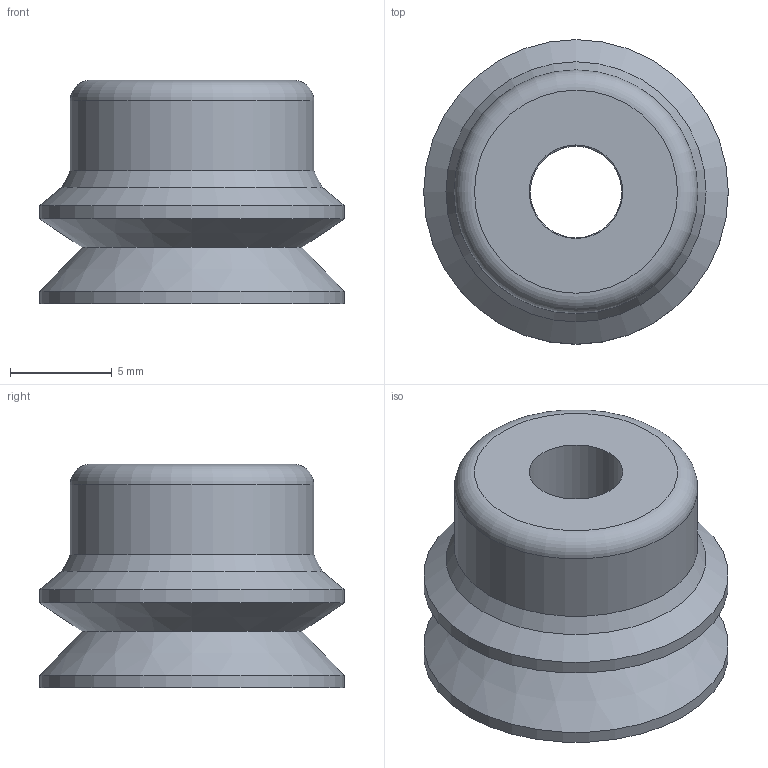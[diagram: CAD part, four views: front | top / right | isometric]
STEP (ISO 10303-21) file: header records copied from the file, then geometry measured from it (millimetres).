
FILE_DESCRIPTION(('STEP AP203'),'1');
FILE_NAME('PYKG-15.stp','2025-05-26T05:17:58',(' '),(' '),'Spatial InterOp 3D',' ',' ');
FILE_SCHEMA(('CONFIG_CONTROL_DESIGN'));
Length unit declared in the file: millimetre
Products named in the file (1): 1
Bounding box: 15 x 15 x 11 mm (x, y, z)
Volume: 887.3 mm3; surface area: 1158 mm2
Topology: 1 solids, 1 shells, 19 faces, 34 edges, 19 vertices
Faces by surface type: cylinder 7, cone 7, plane 4, torus 1
Full cylindrical faces by diameter (mm): 4.5 x1, 4.6 x1, 8 x1, 12 x1, 13.4 x1, 15 x2
Entity records: 432 total; most frequent: DIRECTION 78, CARTESIAN_POINT 58, AXIS2_PLACEMENT_3D 39, EDGE_LOOP 38, ORIENTED_EDGE 38, FACE_OUTER_BOUND 27, ADVANCED_FACE 19, EDGE_CURVE 19
